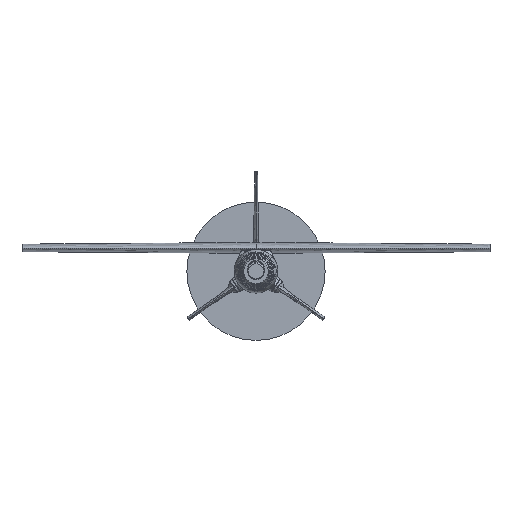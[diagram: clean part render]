
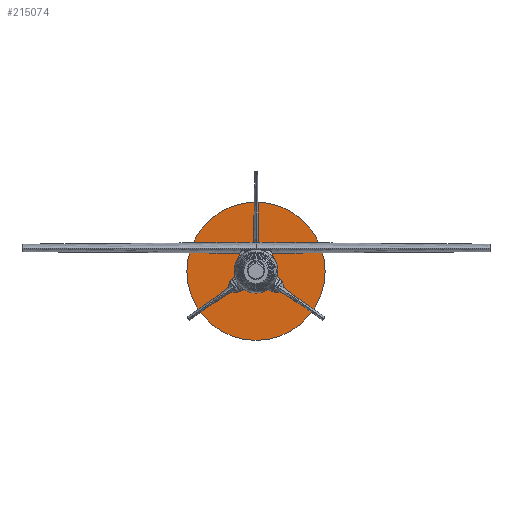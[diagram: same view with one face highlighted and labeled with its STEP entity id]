
A CAD part, left-side view. The second image highlights one B-rep face of the part: STEP entity #215074.
In plain terms, the highlighted planar face has unit normal (-1, 0, 0).
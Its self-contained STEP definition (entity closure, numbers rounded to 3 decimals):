
#214996 = CYLINDRICAL_SURFACE('',#214997,63.5);
#214997 = AXIS2_PLACEMENT_3D('',#214998,#214999,#215000);
#214998 = CARTESIAN_POINT('',(449.85,0.,0.));
#214999 = DIRECTION('',(1.,0.,0.));
#215000 = DIRECTION('',(-0.,0.,1.));
#215021 = VERTEX_POINT('',#215022);
#215022 = CARTESIAN_POINT('',(449.85,0.,63.5));
#215043 = EDGE_CURVE('',#215021,#215021,#215044,.T.);
#215044 = SURFACE_CURVE('',#215045,(#215050,#215057),.PCURVE_S1.);
#215045 = CIRCLE('',#215046,63.5);
#215046 = AXIS2_PLACEMENT_3D('',#215047,#215048,#215049);
#215047 = CARTESIAN_POINT('',(449.85,0.,0.));
#215048 = DIRECTION('',(1.,0.,0.));
#215049 = DIRECTION('',(-0.,0.,1.));
#215050 = PCURVE('',#214996,#215051);
#215051 = DEFINITIONAL_REPRESENTATION('',(#215052),#215056);
#215052 = LINE('',#215053,#215054);
#215053 = CARTESIAN_POINT('',(0.,0.));
#215054 = VECTOR('',#215055,1.);
#215055 = DIRECTION('',(1.,0.));
#215056 = ( GEOMETRIC_REPRESENTATION_CONTEXT(2) 
PARAMETRIC_REPRESENTATION_CONTEXT() REPRESENTATION_CONTEXT('2D SPACE',''
  ) );
#215057 = PCURVE('',#215058,#215063);
#215058 = PLANE('',#215059);
#215059 = AXIS2_PLACEMENT_3D('',#215060,#215061,#215062);
#215060 = CARTESIAN_POINT('',(449.85,0.,0.));
#215061 = DIRECTION('',(1.,0.,0.));
#215062 = DIRECTION('',(-0.,0.,1.));
#215063 = DEFINITIONAL_REPRESENTATION('',(#215064),#215068);
#215064 = CIRCLE('',#215065,63.5);
#215065 = AXIS2_PLACEMENT_2D('',#215066,#215067);
#215066 = CARTESIAN_POINT('',(0.,0.));
#215067 = DIRECTION('',(1.,0.));
#215068 = ( GEOMETRIC_REPRESENTATION_CONTEXT(2) 
PARAMETRIC_REPRESENTATION_CONTEXT() REPRESENTATION_CONTEXT('2D SPACE',''
  ) );
#215074 = ADVANCED_FACE('',(#215075),#215058,.F.);
#215075 = FACE_BOUND('',#215076,.T.);
#215076 = EDGE_LOOP('',(#215077));
#215077 = ORIENTED_EDGE('',*,*,#215043,.F.);
